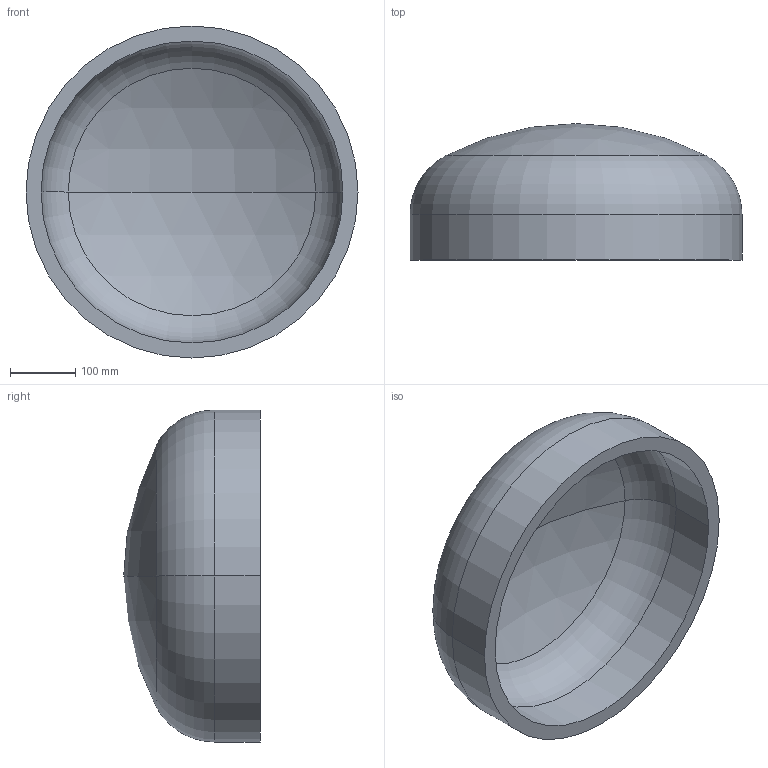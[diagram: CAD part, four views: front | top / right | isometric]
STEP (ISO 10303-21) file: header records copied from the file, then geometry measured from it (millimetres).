
FILE_DESCRIPTION (( 'STEP AP203' ), '1' );
FILE_NAME ('DIN 28013 Korbbogenform_-_Boden DIN 28013 - 508 x 70 - I - s=23.step', '2016-07-01T07:53:17', ( '' ), ( '' ), 'SwSTEP 2.0', 'SolidWorks 2013', '' );
FILE_SCHEMA (( 'CONFIG_CONTROL_DESIGN' ));
Length unit declared in the file: millimetre
Products named in the file (1): DIN 28013 Korbbogenform_-_Boden DIN 28013 - 508 x 70 - I - s=23
Bounding box: 508 x 208.87 x 508 mm (x, y, z)
Volume: 8539892 mm3; surface area: 778751.5 mm2
Topology: 1 solids, 1 shells, 13 faces, 24 edges, 14 vertices
Faces by surface type: torus 4, cylinder 4, sphere 4, plane 1
Entity records: 407 total; most frequent: DIRECTION 72, CARTESIAN_POINT 52, ORIENTED_EDGE 48, AXIS2_PLACEMENT_3D 34, EDGE_CURVE 24, CIRCLE 20, EDGE_LOOP 14, VERTEX_POINT 14
